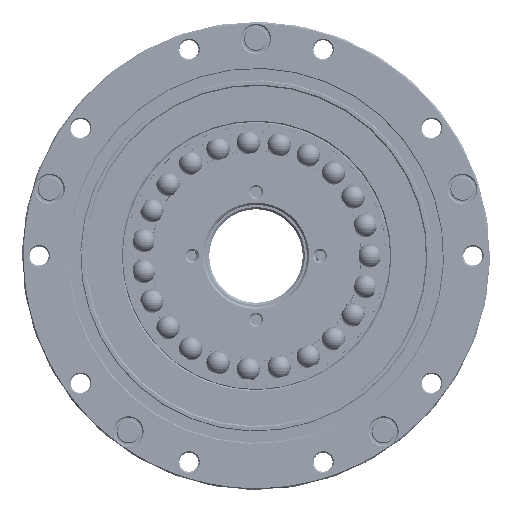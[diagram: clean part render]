
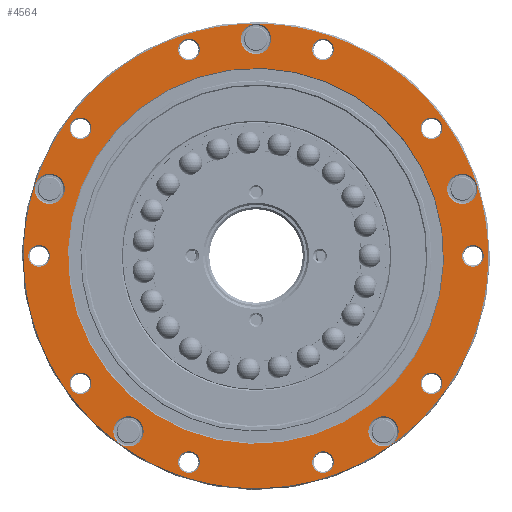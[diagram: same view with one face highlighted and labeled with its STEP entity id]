
A CAD part, top view. The second image highlights one B-rep face of the part: STEP entity #4564.
In plain terms, the highlighted planar face has unit normal (0, 0, 1).
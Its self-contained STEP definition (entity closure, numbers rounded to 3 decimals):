
#4020=PLANE('',#14569);
#4564=ADVANCED_FACE('',(#5738,#5739,#5740,#5741,#5742,#5743,#5744,#5745,
#5746,#5747,#5748,#5749,#5750,#5751,#5752,#5753,#5754),#4020,.T.);
#5738=FACE_BOUND('',#6751,.T.);
#5739=FACE_BOUND('',#6752,.T.);
#5740=FACE_BOUND('',#6753,.T.);
#5741=FACE_BOUND('',#6754,.T.);
#5742=FACE_BOUND('',#6755,.T.);
#5743=FACE_BOUND('',#6756,.T.);
#5744=FACE_BOUND('',#6757,.T.);
#5745=FACE_BOUND('',#6758,.T.);
#5746=FACE_BOUND('',#6759,.T.);
#5747=FACE_BOUND('',#6760,.T.);
#5748=FACE_BOUND('',#6761,.T.);
#5749=FACE_BOUND('',#6762,.T.);
#5750=FACE_BOUND('',#6763,.T.);
#5751=FACE_BOUND('',#6764,.T.);
#5752=FACE_BOUND('',#6765,.T.);
#5753=FACE_BOUND('',#6766,.T.);
#5754=FACE_BOUND('',#6767,.T.);
#6751=EDGE_LOOP('',(#8673));
#6752=EDGE_LOOP('',(#8674));
#6753=EDGE_LOOP('',(#8675));
#6754=EDGE_LOOP('',(#8676));
#6755=EDGE_LOOP('',(#8677));
#6756=EDGE_LOOP('',(#8678));
#6757=EDGE_LOOP('',(#8679));
#6758=EDGE_LOOP('',(#8680));
#6759=EDGE_LOOP('',(#8681));
#6760=EDGE_LOOP('',(#8682));
#6761=EDGE_LOOP('',(#8683));
#6762=EDGE_LOOP('',(#8684));
#6763=EDGE_LOOP('',(#8685));
#6764=EDGE_LOOP('',(#8686));
#6765=EDGE_LOOP('',(#8687));
#6766=EDGE_LOOP('',(#8688));
#6767=EDGE_LOOP('',(#8689));
#8673=ORIENTED_EDGE('',*,*,#12355,.T.);
#8674=ORIENTED_EDGE('',*,*,#12356,.T.);
#8675=ORIENTED_EDGE('',*,*,#12357,.T.);
#8676=ORIENTED_EDGE('',*,*,#12358,.T.);
#8677=ORIENTED_EDGE('',*,*,#12359,.T.);
#8678=ORIENTED_EDGE('',*,*,#12360,.T.);
#8679=ORIENTED_EDGE('',*,*,#12361,.T.);
#8680=ORIENTED_EDGE('',*,*,#12362,.T.);
#8681=ORIENTED_EDGE('',*,*,#12363,.T.);
#8682=ORIENTED_EDGE('',*,*,#12364,.T.);
#8683=ORIENTED_EDGE('',*,*,#12365,.T.);
#8684=ORIENTED_EDGE('',*,*,#12366,.T.);
#8685=ORIENTED_EDGE('',*,*,#12367,.T.);
#8686=ORIENTED_EDGE('',*,*,#12368,.T.);
#8687=ORIENTED_EDGE('',*,*,#12369,.T.);
#8688=ORIENTED_EDGE('',*,*,#12370,.T.);
#8689=ORIENTED_EDGE('',*,*,#12371,.T.);
#11022=VERTEX_POINT('',#110031);
#11023=VERTEX_POINT('',#110033);
#11024=VERTEX_POINT('',#110035);
#11025=VERTEX_POINT('',#110037);
#11026=VERTEX_POINT('',#110039);
#11027=VERTEX_POINT('',#110041);
#11028=VERTEX_POINT('',#110043);
#11029=VERTEX_POINT('',#110045);
#11030=VERTEX_POINT('',#110047);
#11031=VERTEX_POINT('',#110049);
#11032=VERTEX_POINT('',#110051);
#11033=VERTEX_POINT('',#110053);
#11034=VERTEX_POINT('',#110055);
#11035=VERTEX_POINT('',#110057);
#11036=VERTEX_POINT('',#110059);
#11037=VERTEX_POINT('',#110061);
#11038=VERTEX_POINT('',#110063);
#12355=EDGE_CURVE('',#11022,#11022,#13573,.T.);
#12356=EDGE_CURVE('',#11023,#11023,#13574,.T.);
#12357=EDGE_CURVE('',#11024,#11024,#13575,.T.);
#12358=EDGE_CURVE('',#11025,#11025,#13576,.T.);
#12359=EDGE_CURVE('',#11026,#11026,#13577,.T.);
#12360=EDGE_CURVE('',#11027,#11027,#13578,.T.);
#12361=EDGE_CURVE('',#11028,#11028,#13579,.T.);
#12362=EDGE_CURVE('',#11029,#11029,#13580,.T.);
#12363=EDGE_CURVE('',#11030,#11030,#13581,.T.);
#12364=EDGE_CURVE('',#11031,#11031,#13582,.T.);
#12365=EDGE_CURVE('',#11032,#11032,#13583,.T.);
#12366=EDGE_CURVE('',#11033,#11033,#13584,.T.);
#12367=EDGE_CURVE('',#11034,#11034,#13585,.T.);
#12368=EDGE_CURVE('',#11035,#11035,#13586,.T.);
#12369=EDGE_CURVE('',#11036,#11036,#13587,.T.);
#12370=EDGE_CURVE('',#11037,#11037,#13588,.T.);
#12371=EDGE_CURVE('',#11038,#11038,#13589,.T.);
#13573=CIRCLE('',#14552,3.55);
#13574=CIRCLE('',#14553,3.55);
#13575=CIRCLE('',#14554,3.55);
#13576=CIRCLE('',#14555,3.55);
#13577=CIRCLE('',#14556,2.55);
#13578=CIRCLE('',#14557,2.55);
#13579=CIRCLE('',#14558,2.55);
#13580=CIRCLE('',#14559,2.55);
#13581=CIRCLE('',#14560,2.55);
#13582=CIRCLE('',#14561,2.55);
#13583=CIRCLE('',#14562,2.55);
#13584=CIRCLE('',#14563,2.55);
#13585=CIRCLE('',#14564,2.55);
#13586=CIRCLE('',#14565,44.2);
#13587=CIRCLE('',#14566,2.55);
#13588=CIRCLE('',#14567,3.55);
#13589=CIRCLE('',#14568,54.6);
#14552=AXIS2_PLACEMENT_3D('',#110030,#16637,#16638);
#14553=AXIS2_PLACEMENT_3D('',#110032,#16639,#16640);
#14554=AXIS2_PLACEMENT_3D('',#110034,#16641,#16642);
#14555=AXIS2_PLACEMENT_3D('',#110036,#16643,#16644);
#14556=AXIS2_PLACEMENT_3D('',#110038,#16645,#16646);
#14557=AXIS2_PLACEMENT_3D('',#110040,#16647,#16648);
#14558=AXIS2_PLACEMENT_3D('',#110042,#16649,#16650);
#14559=AXIS2_PLACEMENT_3D('',#110044,#16651,#16652);
#14560=AXIS2_PLACEMENT_3D('',#110046,#16653,#16654);
#14561=AXIS2_PLACEMENT_3D('',#110048,#16655,#16656);
#14562=AXIS2_PLACEMENT_3D('',#110050,#16657,#16658);
#14563=AXIS2_PLACEMENT_3D('',#110052,#16659,#16660);
#14564=AXIS2_PLACEMENT_3D('',#110054,#16661,#16662);
#14565=AXIS2_PLACEMENT_3D('',#110056,#16663,#16664);
#14566=AXIS2_PLACEMENT_3D('',#110058,#16665,#16666);
#14567=AXIS2_PLACEMENT_3D('',#110060,#16667,#16668);
#14568=AXIS2_PLACEMENT_3D('',#110062,#16669,#16670);
#14569=AXIS2_PLACEMENT_3D('',#110064,#16671,#16672);
#16637=DIRECTION('',(0.,0.,-1.));
#16638=DIRECTION('',(1.,0.,0.));
#16639=DIRECTION('',(0.,0.,-1.));
#16640=DIRECTION('',(1.,0.,0.));
#16641=DIRECTION('',(0.,0.,-1.));
#16642=DIRECTION('',(1.,0.,0.));
#16643=DIRECTION('',(0.,0.,-1.));
#16644=DIRECTION('',(1.,0.,0.));
#16645=DIRECTION('',(0.,0.,-1.));
#16646=DIRECTION('',(1.,0.,0.));
#16647=DIRECTION('',(0.,0.,-1.));
#16648=DIRECTION('',(1.,0.,0.));
#16649=DIRECTION('',(0.,0.,-1.));
#16650=DIRECTION('',(1.,0.,0.));
#16651=DIRECTION('',(0.,0.,-1.));
#16652=DIRECTION('',(1.,0.,0.));
#16653=DIRECTION('',(0.,0.,-1.));
#16654=DIRECTION('',(1.,0.,0.));
#16655=DIRECTION('',(0.,0.,-1.));
#16656=DIRECTION('',(1.,0.,0.));
#16657=DIRECTION('',(0.,0.,-1.));
#16658=DIRECTION('',(1.,0.,0.));
#16659=DIRECTION('',(0.,0.,-1.));
#16660=DIRECTION('',(1.,0.,0.));
#16661=DIRECTION('',(0.,0.,-1.));
#16662=DIRECTION('',(1.,0.,0.));
#16663=DIRECTION('',(0.,0.,-1.));
#16664=DIRECTION('',(1.,0.,0.));
#16665=DIRECTION('',(0.,0.,-1.));
#16666=DIRECTION('',(1.,0.,0.));
#16667=DIRECTION('',(0.,0.,-1.));
#16668=DIRECTION('',(1.,0.,0.));
#16669=DIRECTION('',(0.,0.,1.));
#16670=DIRECTION('',(1.,0.,0.));
#16671=DIRECTION('',(0.,0.,1.));
#16672=DIRECTION('',(1.,0.,0.));
#110030=CARTESIAN_POINT('',(29.977,-41.26,0.));
#110031=CARTESIAN_POINT('',(33.527,-41.26,0.));
#110032=CARTESIAN_POINT('',(-29.977,-41.26,0.));
#110033=CARTESIAN_POINT('',(-26.427,-41.26,0.));
#110034=CARTESIAN_POINT('',(-48.504,15.76,0.));
#110035=CARTESIAN_POINT('',(-44.954,15.76,0.));
#110036=CARTESIAN_POINT('',(0.,51.,0.));
#110037=CARTESIAN_POINT('',(3.55,51.,0.));
#110038=CARTESIAN_POINT('',(41.26,-29.977,0.));
#110039=CARTESIAN_POINT('',(43.81,-29.977,0.));
#110040=CARTESIAN_POINT('',(15.76,-48.504,0.));
#110041=CARTESIAN_POINT('',(18.31,-48.504,0.));
#110042=CARTESIAN_POINT('',(-15.76,-48.504,0.));
#110043=CARTESIAN_POINT('',(-13.21,-48.504,0.));
#110044=CARTESIAN_POINT('',(-41.26,-29.977,0.));
#110045=CARTESIAN_POINT('',(-38.71,-29.977,0.));
#110046=CARTESIAN_POINT('',(-51.,0.,0.));
#110047=CARTESIAN_POINT('',(-48.45,0.,0.));
#110048=CARTESIAN_POINT('',(-41.26,29.977,0.));
#110049=CARTESIAN_POINT('',(-38.71,29.977,0.));
#110050=CARTESIAN_POINT('',(-15.76,48.504,0.));
#110051=CARTESIAN_POINT('',(-13.21,48.504,0.));
#110052=CARTESIAN_POINT('',(15.76,48.504,0.));
#110053=CARTESIAN_POINT('',(18.31,48.504,0.));
#110054=CARTESIAN_POINT('',(41.26,29.977,0.));
#110055=CARTESIAN_POINT('',(43.81,29.977,0.));
#110056=CARTESIAN_POINT('',(0.,0.,0.));
#110057=CARTESIAN_POINT('',(44.2,0.,0.));
#110058=CARTESIAN_POINT('',(51.,0.,0.));
#110059=CARTESIAN_POINT('',(53.55,0.,0.));
#110060=CARTESIAN_POINT('',(48.504,15.76,0.));
#110061=CARTESIAN_POINT('',(52.054,15.76,0.));
#110062=CARTESIAN_POINT('',(0.,0.,0.));
#110063=CARTESIAN_POINT('',(54.6,0.,0.));
#110064=CARTESIAN_POINT('',(0.,0.,0.));
